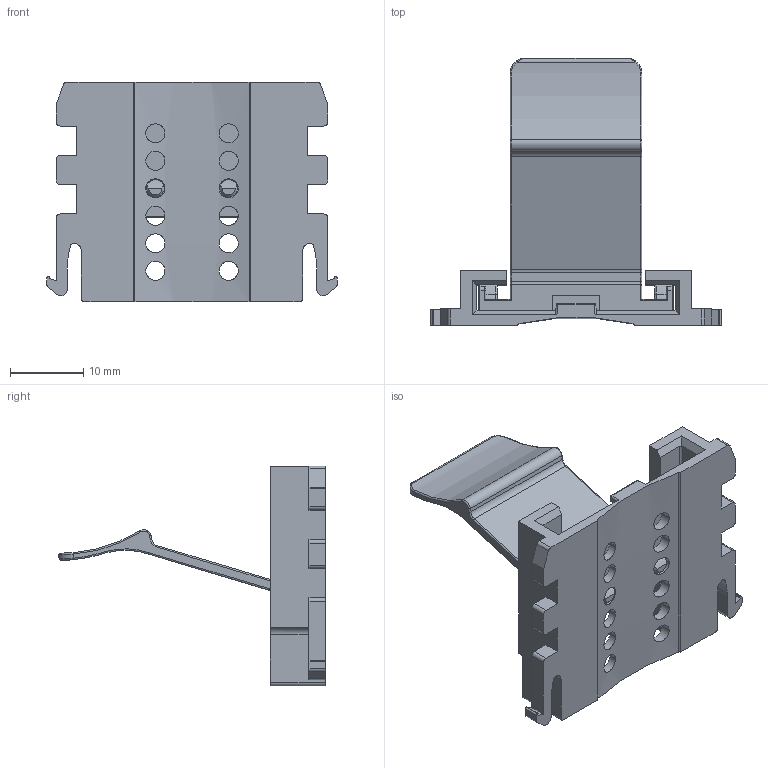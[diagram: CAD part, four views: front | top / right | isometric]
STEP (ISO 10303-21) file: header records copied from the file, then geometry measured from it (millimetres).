
FILE_DESCRIPTION((''),'2;1');
FILE_NAME('69_0120_ASM','2014-03-06T',('dsc'),(''),'PRO/ENGINEER BY PARAMETRIC TECHNOLOGY CORPORATION, 2012360','PRO/ENGINEER BY PARAMETRIC TECHNOLOGY CORPORATION, 2012360','');
FILE_SCHEMA(('CONFIG_CONTROL_DESIGN'));
Length unit declared in the file: millimetre
Products named in the file (3): 69_0123; 69_0121; 69_0120_ASM
Assembly tree (2 placements, depth 2):
  69_0120_ASM
    69_0123
    69_0121
Bounding box: 39.6 x 36.41 x 30 mm (x, y, z)
Volume: 4546.5 mm3; surface area: 5938 mm2
Topology: 2 solids, 2 shells, 362 faces, 929 edges, 550 vertices
Faces by surface type: cylinder 161, plane 115, torus 52, bspline 20, sphere 12, cone 2
Entity records: 14432 total; most frequent: CARTESIAN_POINT 5779, ORIENTED_EDGE 1810, DIRECTION 1794, EDGE_CURVE 905, AXIS2_PLACEMENT_3D 667, VERTEX_POINT 550, VECTOR 460, LINE 460
